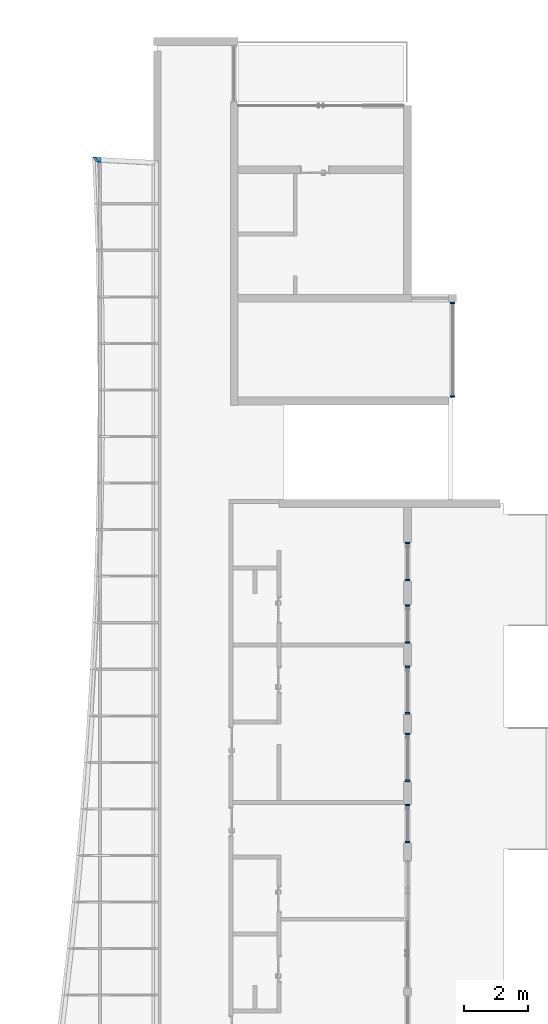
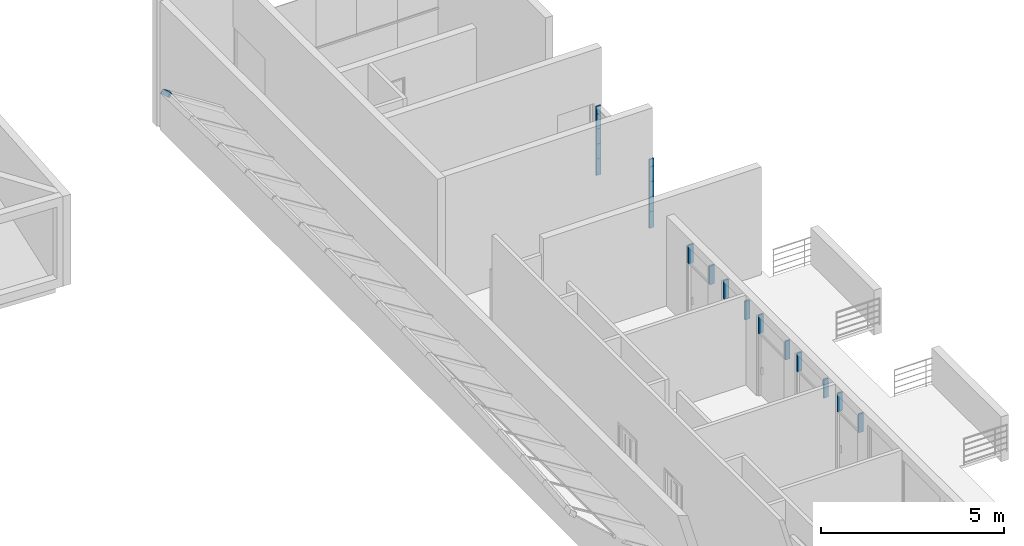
# One storey, part 13 of 33: 21 members, 7 elements without a shape of their own.
"""IFC2X3 building model written with IfcOpenShell, lengths in millimetres."""

from ifc_helpers import new_model, entity, si_unit, converted_unit, derived_unit, direction, frame, origin, origin_2d_with_axis, place, context, subcontext, project, spatial, rectangle, extrude, clip, halfspace, source, transform, mapped, material, type_object, type_shapes, element, aggregate, save


model = new_model("IFC2X3")

# Units and contexts
model_context = context("Model", 3, precision=0.01, world=origin(), true_north=direction((6.12303176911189e-17, 1.0)))
body_context = subcontext(model_context, "Body", "Model", "MODEL_VIEW")
ifc_project = project(units=[si_unit("LENGTHUNIT", "METRE", prefix="MILLI"), si_unit("AREAUNIT", "SQUARE_METRE"), si_unit("VOLUMEUNIT", "CUBIC_METRE"), converted_unit("PLANEANGLEUNIT", "DEGREE", entity("IfcRatioMeasure", 0.0174532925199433), si_unit("PLANEANGLEUNIT", "RADIAN"), dimensions=[0, 0, 0, 0, 0, 0, 0]), si_unit("MASSUNIT", "GRAM", prefix="KILO"), derived_unit("MASSDENSITYUNIT", [(si_unit("MASSUNIT", "GRAM", prefix="KILO"), 1), (si_unit("LENGTHUNIT", "METRE"), -3)]), si_unit("TIMEUNIT", "SECOND"), si_unit("FREQUENCYUNIT", "HERTZ"), si_unit("THERMODYNAMICTEMPERATUREUNIT", "DEGREE_CELSIUS"), derived_unit("THERMALTRANSMITTANCEUNIT", [(si_unit("MASSUNIT", "GRAM", prefix="KILO"), 1), (si_unit("THERMODYNAMICTEMPERATUREUNIT", "KELVIN"), -1), (si_unit("TIMEUNIT", "SECOND"), -3)]), derived_unit("VOLUMETRICFLOWRATEUNIT", [(si_unit("LENGTHUNIT", "METRE"), 3), (si_unit("TIMEUNIT", "SECOND"), -1)]), si_unit("ELECTRICCURRENTUNIT", "AMPERE"), si_unit("ELECTRICVOLTAGEUNIT", "VOLT"), si_unit("POWERUNIT", "WATT"), si_unit("FORCEUNIT", "NEWTON", prefix="KILO"), si_unit("ILLUMINANCEUNIT", "LUX"), si_unit("LUMINOUSFLUXUNIT", "LUMEN"), si_unit("LUMINOUSINTENSITYUNIT", "CANDELA"), derived_unit("USERDEFINED", [(si_unit("MASSUNIT", "GRAM", prefix="KILO"), -1), (si_unit("LENGTHUNIT", "METRE"), -2), (si_unit("TIMEUNIT", "SECOND"), 3), (si_unit("LUMINOUSFLUXUNIT", "LUMEN"), 1)]), derived_unit("LINEARVELOCITYUNIT", [(si_unit("LENGTHUNIT", "METRE"), 1), (si_unit("TIMEUNIT", "SECOND"), -1)]), si_unit("PRESSUREUNIT", "PASCAL"), derived_unit("USERDEFINED", [(si_unit("LENGTHUNIT", "METRE"), -2), (si_unit("MASSUNIT", "GRAM", prefix="KILO"), 1), (si_unit("TIMEUNIT", "SECOND"), -2)])], contexts=[model_context])

# Site, building, storey
site_placement = place(None, origin())
site = spatial("IfcSite", under=ifc_project, at=site_placement, Name="表面", CompositionType="ELEMENT")
building_placement = place(site_placement, origin())
building = spatial("IfcBuilding", under=site, at=building_placement, CompositionType="ELEMENT")
storey_placement = place(building_placement, frame((0.0, 0.0, 6000.0)))
storey = spatial("IfcBuildingStorey", under=building, at=storey_placement, Name="3F", CompositionType="ELEMENT", Elevation=6000.00000000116)

# Curtain wall, members
curtain_wall_type_1 = type_object("IfcCurtainWallType", Name="幕墙:幕墙 1", PredefinedType="NOTDEFINED")
curtain_wall_1_placement = place(storey_placement, frame((0.0, 0.0, -6000.0)))
curtain_wall_1 = element("IfcCurtainWall", 1, at=curtain_wall_1_placement, inside=storey, type_object=curtain_wall_type_1, Name="幕墙:幕墙 1", ObjectType="幕墙:幕墙 1")
ifc_material_1 = material(Name="金属 - 铝")
member_type_1 = type_object("IfcMemberType", Name="50 x 150mm", PredefinedType="MEMBER")
shared_shape_1 = source(origin(), body_context, "Body", "SweptSolid", [
    extrude(rectangle(XDim=150.0, YDim=50.0, at=origin_2d_with_axis()), frame((-25.0, 0.0, -550.0), z_axis=(0.0, 0.0, 1.0), x_axis=(0.0, -1.0, 0.0)), (0.0, 0.0, 1.0), 550.0),
])
type_shapes(member_type_1, [shared_shape_1])
member_1_placement = place(storey_placement, frame((-5230.24991264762, -5396.868426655, 0.0), z_axis=(0.0, 0.0, -1.0), x_axis=(0.0, -1.0, 0.0)))
member_1 = element("IfcMember", 2, at=member_1_placement, type_object=member_type_1, material=ifc_material_1, Name="矩形竖梃:50 x 150mm", ObjectType="50 x 150mm", context=body_context, shape_type="MappedRepresentation", body=[
    mapped(shared_shape_1, transform((0.0, 0.0, 0.0), scale=1.0)),
])
member_type_2 = type_object("IfcMemberType", Name="50 x 150mm", PredefinedType="MEMBER")
shared_shape_2 = source(origin(), body_context, "Body", "SweptSolid", [
    extrude(rectangle(XDim=150.0, YDim=50.0, at=origin_2d_with_axis()), frame((-25.0, 0.0, -500.0), z_axis=(0.0, 0.0, 1.0), x_axis=(0.0, -1.0, 0.0)), (0.0, 0.0, 1.0), 500.0),
])
type_shapes(member_type_2, [shared_shape_2])
member_2_placement = place(storey_placement, frame((-5230.24991264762, -5396.868426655, 550.0), z_axis=(0.0, 0.0, -1.0), x_axis=(0.0, -1.0, 0.0)))
member_2 = element("IfcMember", 3, at=member_2_placement, type_object=member_type_2, material=ifc_material_1, Name="矩形竖梃:50 x 150mm", ObjectType="50 x 150mm", context=body_context, shape_type="MappedRepresentation", body=[
    mapped(shared_shape_2, transform((0.0, 0.0, 0.0), scale=1.0)),
])
member_3_placement = place(storey_placement, frame((-5230.24991264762, -5396.868426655, 1050.0), z_axis=(0.0, 0.0, -1.0), x_axis=(0.0, -1.0, 0.0)))
member_3 = element("IfcMember", 4, at=member_3_placement, type_object=member_type_2, material=ifc_material_1, Name="矩形竖梃:50 x 150mm", ObjectType="50 x 150mm", context=body_context, shape_type="MappedRepresentation", body=[
    mapped(shared_shape_2, transform((0.0, 0.0, 0.0), scale=1.0)),
])
member_4_placement = place(storey_placement, frame((-5230.24991264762, -5396.868426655, 1550.0), z_axis=(0.0, 0.0, -1.0), x_axis=(0.0, -1.0, 0.0)))
member_4 = element("IfcMember", 5, at=member_4_placement, type_object=member_type_2, material=ifc_material_1, Name="矩形竖梃:50 x 150mm", ObjectType="50 x 150mm", context=body_context, shape_type="MappedRepresentation", body=[
    mapped(shared_shape_2, transform((0.0, 0.0, 0.0), scale=1.0)),
])
member_type_3 = type_object("IfcMemberType", Name="50 x 150mm", PredefinedType="MEMBER")
shared_shape_3 = source(origin(), body_context, "Body", "SweptSolid", [
    extrude(rectangle(XDim=150.0, YDim=50.0, at=origin_2d_with_axis()), frame((-25.0, 0.0, -550.0), z_axis=(0.0, 0.0, 1.0), x_axis=(0.0, -1.0, 0.0)), (0.0, 0.0, 1.0), 550.0),
])
type_shapes(member_type_3, [shared_shape_3])
member_5_placement = place(storey_placement, frame((-5230.24991264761, -2436.868426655, 550.0), z_axis=(0.0, 0.0, 1.0), x_axis=(0.0, 1.0, 0.0)))
member_5 = element("IfcMember", 6, at=member_5_placement, type_object=member_type_3, material=ifc_material_1, Name="矩形竖梃:50 x 150mm", ObjectType="50 x 150mm", context=body_context, shape_type="MappedRepresentation", body=[
    mapped(shared_shape_3, transform((0.0, 0.0, 0.0), scale=1.0)),
])
member_type_4 = type_object("IfcMemberType", Name="50 x 150mm", PredefinedType="MEMBER")
shared_shape_4 = source(origin(), body_context, "Body", "SweptSolid", [
    extrude(rectangle(XDim=150.0, YDim=50.0, at=origin_2d_with_axis()), frame((-25.0, 0.0, -500.0), z_axis=(0.0, 0.0, 1.0), x_axis=(0.0, -1.0, 0.0)), (0.0, 0.0, 1.0), 500.0),
])
type_shapes(member_type_4, [shared_shape_4])
member_6_placement = place(storey_placement, frame((-5230.24991264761, -2436.868426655, 1050.0), z_axis=(0.0, 0.0, 1.0), x_axis=(0.0, 1.0, 0.0)))
member_6 = element("IfcMember", 7, at=member_6_placement, type_object=member_type_4, material=ifc_material_1, Name="矩形竖梃:50 x 150mm", ObjectType="50 x 150mm", context=body_context, shape_type="MappedRepresentation", body=[
    mapped(shared_shape_4, transform((0.0, 0.0, 0.0), scale=1.0)),
])
member_7_placement = place(storey_placement, frame((-5230.24991264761, -2436.868426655, 1550.0), z_axis=(0.0, 0.0, 1.0), x_axis=(0.0, 1.0, 0.0)))
member_7 = element("IfcMember", 8, at=member_7_placement, type_object=member_type_4, material=ifc_material_1, Name="矩形竖梃:50 x 150mm", ObjectType="50 x 150mm", context=body_context, shape_type="MappedRepresentation", body=[
    mapped(shared_shape_4, transform((0.0, 0.0, 0.0), scale=1.0)),
])
member_8_placement = place(storey_placement, frame((-5230.24991264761, -2436.868426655, 2050.0), z_axis=(0.0, 0.0, 1.0), x_axis=(0.0, 1.0, 0.0)))
member_8 = element("IfcMember", 9, at=member_8_placement, type_object=member_type_4, material=ifc_material_1, Name="矩形竖梃:50 x 150mm", ObjectType="50 x 150mm", context=body_context, shape_type="MappedRepresentation", body=[
    mapped(shared_shape_4, transform((0.0, 0.0, 0.0), scale=1.0)),
])
member_type_5 = type_object("IfcMemberType", Name="50 x 150mm", PredefinedType="MEMBER")
shared_shape_5 = source(origin(), body_context, "Body", "SweptSolid", [
    extrude(rectangle(XDim=150.0, YDim=50.0, at=origin_2d_with_axis()), frame((-25.0, 0.0, -250.0), z_axis=(0.0, 0.0, 1.0), x_axis=(0.0, -1.0, 0.0)), (0.0, 0.0, 1.0), 250.000000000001),
])
type_shapes(member_type_5, [shared_shape_5])
member_9_placement = place(storey_placement, frame((-5230.24991264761, -2436.868426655, 2300.0), z_axis=(0.0, 0.0, 1.0), x_axis=(0.0, 1.0, 0.0)))
member_9 = element("IfcMember", 10, at=member_9_placement, type_object=member_type_5, material=ifc_material_1, Name="矩形竖梃:50 x 150mm", ObjectType="50 x 150mm", context=body_context, shape_type="MappedRepresentation", body=[
    mapped(shared_shape_5, transform((0.0, 0.0, 0.0), scale=1.0)),
])
member_type_6 = type_object("IfcMemberType", Name="50 x 150mm", PredefinedType="MEMBER")
shared_shape_6 = source(origin(), body_context, "Body", "SweptSolid", [
    extrude(rectangle(XDim=150.0, YDim=50.0, at=origin_2d_with_axis()), frame((-25.0, 0.0, -250.0), z_axis=(0.0, 0.0, 1.0), x_axis=(0.0, -1.0, 0.0)), (0.0, 0.0, 1.0), 250.000000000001),
])
type_shapes(member_type_6, [shared_shape_6])
member_10_placement = place(storey_placement, frame((-5230.24991264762, -5396.868426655, 2050.0), z_axis=(0.0, 0.0, -1.0), x_axis=(0.0, -1.0, 0.0)))
member_10 = element("IfcMember", 11, at=member_10_placement, type_object=member_type_6, material=ifc_material_1, Name="矩形竖梃:50 x 150mm", ObjectType="50 x 150mm", context=body_context, shape_type="MappedRepresentation", body=[
    mapped(shared_shape_6, transform((0.0, 0.0, 0.0), scale=1.0)),
])
aggregate(curtain_wall_1, [member_1, member_9, member_2, member_5, member_6, member_7, member_8, member_3, member_4, member_10])

# Curtain wall, member
curtain_wall_type_2 = type_object("IfcCurtainWallType", Name="幕墙:幕墙 4", PredefinedType="NOTDEFINED")
curtain_wall_2_placement = place(storey_placement, frame((0.0, 0.0, -6000.0)))
curtain_wall_2 = element("IfcCurtainWall", 12, at=curtain_wall_2_placement, inside=storey, type_object=curtain_wall_type_2, Name="幕墙:幕墙 4", ObjectType="幕墙:幕墙 4")
member_type_7 = type_object("IfcMemberType", Name="50 x 150mm", PredefinedType="MEMBER")
shared_shape_7 = source(origin(), body_context, "Body", "SweptSolid", [
    extrude(rectangle(XDim=150.0, YDim=50.0, at=origin_2d_with_axis()), frame((-25.0, 0.0, -625.0), z_axis=(0.0, 0.0, 1.0), x_axis=(0.0, -1.0, 0.0)), (0.0, 0.0, 1.0), 625.0),
])
type_shapes(member_type_7, [shared_shape_7])
member_11_placement = place(storey_placement, frame((-6630.24991264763, -11856.868426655, 2075.0), z_axis=(0.0, 0.0, -1.0), x_axis=(0.0, 1.0, 0.0)))
member_11 = element("IfcMember", 13, at=member_11_placement, type_object=member_type_7, material=ifc_material_1, Name="矩形竖梃:50 x 150mm", ObjectType="50 x 150mm", context=body_context, shape_type="MappedRepresentation", body=[
    mapped(shared_shape_7, transform((0.0, 0.0, 0.0), scale=1.0)),
])

curtain_wall_3_placement = place(storey_placement, frame((0.0, 0.0, -6000.0)))
curtain_wall_3 = element("IfcCurtainWall", 14, at=curtain_wall_3_placement, inside=storey, type_object=curtain_wall_type_2, Name="幕墙:幕墙 4", ObjectType="幕墙:幕墙 4")
member_12_placement = place(storey_placement, frame((-6630.24991264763, -15266.868426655, 2075.0), z_axis=(0.0, 0.0, -1.0), x_axis=(0.0, -1.0, 0.0)))
member_12 = element("IfcMember", 15, at=member_12_placement, type_object=member_type_7, material=ifc_material_1, Name="矩形竖梃:50 x 150mm", ObjectType="50 x 150mm", context=body_context, shape_type="MappedRepresentation", body=[
    mapped(shared_shape_7, transform((0.0, 0.0, 0.0), scale=1.0)),
])

curtain_wall_4_placement = place(storey_placement, frame((0.0, 0.0, -6000.0)))
curtain_wall_4 = element("IfcCurtainWall", 16, at=curtain_wall_4_placement, inside=storey, type_object=curtain_wall_type_2, Name="幕墙:幕墙 4", ObjectType="幕墙:幕墙 4")
member_13_placement = place(storey_placement, frame((-6630.24991264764, -19276.868426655, 2075.0), z_axis=(0.0, 0.0, -1.0), x_axis=(0.0, -1.0, 0.0)))
member_13 = element("IfcMember", 17, at=member_13_placement, type_object=member_type_7, material=ifc_material_1, Name="矩形竖梃:50 x 150mm", ObjectType="50 x 150mm", context=body_context, shape_type="MappedRepresentation", body=[
    mapped(shared_shape_7, transform((0.0, 0.0, 0.0), scale=1.0)),
])

curtain_wall_5_placement = place(storey_placement, frame((0.0, 0.0, -6000.0)))
curtain_wall_5 = element("IfcCurtainWall", 18, at=curtain_wall_5_placement, inside=storey, type_object=curtain_wall_type_2, Name="幕墙:幕墙 4", ObjectType="幕墙:幕墙 4")
member_14_placement = place(storey_placement, frame((-6630.24991264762, -9916.868426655, 2075.0), z_axis=(0.0, 0.0, -1.0), x_axis=(0.0, 1.0, 0.0)))
member_14 = element("IfcMember", 19, at=member_14_placement, type_object=member_type_7, material=ifc_material_1, Name="矩形竖梃:50 x 150mm", ObjectType="50 x 150mm", context=body_context, shape_type="MappedRepresentation", body=[
    mapped(shared_shape_7, transform((0.0, 0.0, 0.0), scale=1.0)),
])

curtain_wall_6_placement = place(storey_placement, frame((0.0, 0.0, -6000.0)))
curtain_wall_6 = element("IfcCurtainWall", 20, at=curtain_wall_6_placement, inside=storey, type_object=curtain_wall_type_2, Name="幕墙:幕墙 4", ObjectType="幕墙:幕墙 4")
member_15_placement = place(storey_placement, frame((-6630.24991264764, -17366.868426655, 2075.0), z_axis=(0.0, 0.0, -1.0), x_axis=(0.0, -1.0, 0.0)))
member_15 = element("IfcMember", 21, at=member_15_placement, type_object=member_type_7, material=ifc_material_1, Name="矩形竖梃:50 x 150mm", ObjectType="50 x 150mm", context=body_context, shape_type="MappedRepresentation", body=[
    mapped(shared_shape_7, transform((0.0, 0.0, 0.0), scale=1.0)),
])

# Member
member_type_8 = type_object("IfcMemberType", Name="50 x 150mm", PredefinedType="MEMBER")
shared_shape_8 = source(origin(), body_context, "Body", "SweptSolid", [
    extrude(rectangle(XDim=150.0, YDim=50.0, at=origin_2d_with_axis()), frame((-25.0, 0.0, -625.0), z_axis=(0.0, 0.0, 1.0), x_axis=(0.0, -1.0, 0.0)), (0.0, 0.0, 1.0), 625.0),
])
type_shapes(member_type_8, [shared_shape_8])
member_16_placement = place(storey_placement, frame((-6630.24991264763, -13056.868426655, 2700.0), z_axis=(0.0, 0.0, 1.0), x_axis=(0.0, -1.0, 0.0)))
member_16 = element("IfcMember", 22, at=member_16_placement, type_object=member_type_8, material=ifc_material_1, Name="矩形竖梃:50 x 150mm", ObjectType="50 x 150mm", context=body_context, shape_type="MappedRepresentation", body=[
    mapped(shared_shape_8, transform((0.0, 0.0, 0.0), scale=1.0)),
])

aggregate(curtain_wall_2, [member_11, member_16])

member_17_placement = place(storey_placement, frame((-6630.24991264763, -13766.868426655, 2700.0), z_axis=(0.0, 0.0, 1.0), x_axis=(0.0, 1.0, 0.0)))
member_17 = element("IfcMember", 23, at=member_17_placement, type_object=member_type_8, material=ifc_material_1, Name="矩形竖梃:50 x 150mm", ObjectType="50 x 150mm", context=body_context, shape_type="MappedRepresentation", body=[
    mapped(shared_shape_8, transform((0.0, 0.0, 0.0), scale=1.0)),
])

aggregate(curtain_wall_3, [member_12, member_17])

member_18_placement = place(storey_placement, frame((-6630.24991264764, -18076.868426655, 2700.0), z_axis=(0.0, 0.0, 1.0), x_axis=(0.0, 1.0, 0.0)))
member_18 = element("IfcMember", 24, at=member_18_placement, type_object=member_type_8, material=ifc_material_1, Name="矩形竖梃:50 x 150mm", ObjectType="50 x 150mm", context=body_context, shape_type="MappedRepresentation", body=[
    mapped(shared_shape_8, transform((0.0, 0.0, 0.0), scale=1.0)),
])

aggregate(curtain_wall_4, [member_13, member_18])

member_19_placement = place(storey_placement, frame((-6630.24991264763, -11116.868426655, 2700.0), z_axis=(0.0, 0.0, 1.0), x_axis=(0.0, -1.0, 0.0)))
member_19 = element("IfcMember", 25, at=member_19_placement, type_object=member_type_8, material=ifc_material_1, Name="矩形竖梃:50 x 150mm", ObjectType="50 x 150mm", context=body_context, shape_type="MappedRepresentation", body=[
    mapped(shared_shape_8, transform((0.0, 0.0, 0.0), scale=1.0)),
])

aggregate(curtain_wall_5, [member_14, member_19])

member_20_placement = place(storey_placement, frame((-6630.24991264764, -15866.868426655, 2700.0), z_axis=(0.0, 0.0, 1.0), x_axis=(0.0, 1.0, 0.0)))
member_20 = element("IfcMember", 26, at=member_20_placement, type_object=member_type_8, material=ifc_material_1, Name="矩形竖梃:50 x 150mm", ObjectType="50 x 150mm", context=body_context, shape_type="MappedRepresentation", body=[
    mapped(shared_shape_8, transform((0.0, 0.0, 0.0), scale=1.0)),
])

aggregate(curtain_wall_6, [member_15, member_20])

# Curtain wall, member
curtain_wall_type_3 = type_object("IfcCurtainWallType", Name="幕墙系统:1450 x 2100mm", PredefinedType="NOTDEFINED")
curtain_wall_7_placement = place(storey_placement, frame((0.0, 0.0, -6000.0)))
curtain_wall_7 = element("IfcCurtainWall", 27, at=curtain_wall_7_placement, inside=storey, type_object=curtain_wall_type_3, Name="幕墙系统:1450 x 2100mm", ObjectType="幕墙系统:1450 x 2100mm")
ifc_material_2 = material(Name="木质 - 木材")
member_type_9 = type_object("IfcMemberType", Name="200 x 150mm", PredefinedType="MEMBER")
shared_shape_9 = source(origin(), body_context, "Body", "Clipping", [
    clip(extrude(rectangle(XDim=150.0, YDim=150.0, at=origin_2d_with_axis()), frame((-75.0, 0.0, -227.356224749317), z_axis=(0.0, 0.0, 1.0), x_axis=(0.0, -1.0, 0.0)), (0.0, 0.0, 1.0), 227.356224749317), halfspace(frame((-1.03528606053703e-09, -304.800000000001, -227.35622474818), z_axis=(-0.739332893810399, 0.0, -0.673340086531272), x_axis=(-0.673340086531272, 0.0, 0.739332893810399)), False)),
])
type_shapes(member_type_9, [shared_shape_9])
placement = place(building_placement, frame((0.0, 0.0, 9000.0)))
member_21_placement = place(placement, frame((-16211.1509145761, 2069.00736591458, 826.048296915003), z_axis=(0.847211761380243, -0.0444004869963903, -0.52939666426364), x_axis=(0.0376537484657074, 0.999013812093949, -0.0235286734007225)))
member_21 = element("IfcMember", 28, at=member_21_placement, type_object=member_type_9, material=ifc_material_2, Name="矩形竖梃:200 x 150mm", ObjectType="200 x 150mm", context=body_context, shape_type="MappedRepresentation", body=[
    mapped(shared_shape_9, transform((0.0, 0.0, 0.0), scale=1.0)),
])
aggregate(curtain_wall_7, [member_21])

save(model, "model.ifc")
